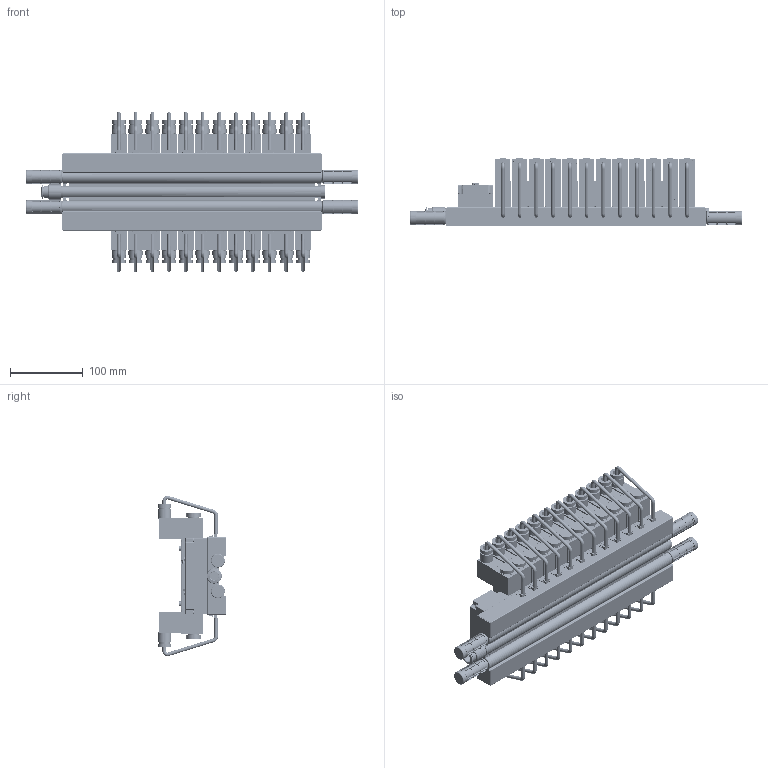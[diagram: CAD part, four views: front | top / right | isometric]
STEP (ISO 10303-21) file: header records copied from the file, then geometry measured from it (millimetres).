
FILE_DESCRIPTION (( 'STEP AP203' ), '1' );
FILE_NAME ('FV-A42-B5212-S12-M1-25V2.STEP', '2024-08-29T01:59:44', ( 'L' ), ( '' ), 'SwSTEP 2.0', 'SolidWorks 2019', '' );
FILE_SCHEMA (( 'CONFIG_CONTROL_DESIGN' ));
Length unit declared in the file: millimetre
Products named in the file (7): A42-B52.step; QS-G1_4-12-I.stp; FV-M1-25.step; U-1_4-50.prt; B-1_4.stp; FV-A42-B5212-S12-M1-25V2; 12P.step
Assembly tree (20 placements, depth 2):
  FV-A42-B5212-S12-M1-25V2
    A42-B52.step  x12
    FV-M1-25.step
    B-1_4.stp
    QS-G1_4-12-I.stp
    U-1_4-50.prt  x4
    12P.step
Bounding box: 456 x 94 x 220.29 mm (x, y, z)
Volume: 2633536.7 mm3; surface area: 818211.1 mm2
Topology: 104 solids, 106 shells, 10948 faces, 27745 edges, 17389 vertices
Faces by surface type: plane 5638, cylinder 3739, torus 611, cone 371, bspline 303, sphere 286
Entity records: 100960 total; most frequent: CARTESIAN_POINT 29416, ORIENTED_EDGE 14776, DIRECTION 14707, EDGE_CURVE 7388, AXIS2_PLACEMENT_3D 5318, VERTEX_POINT 4692, VECTOR 4071, LINE 4071
